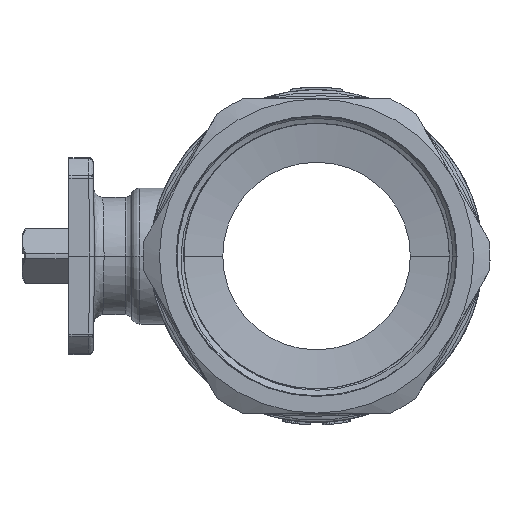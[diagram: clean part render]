
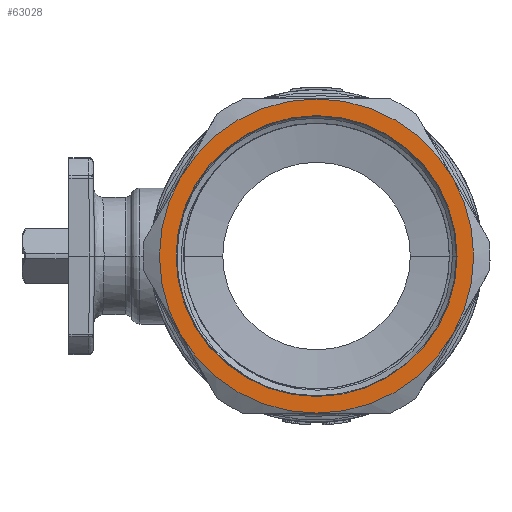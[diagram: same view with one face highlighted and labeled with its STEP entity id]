
A CAD part, left-side view. The second image highlights one B-rep face of the part: STEP entity #63028.
In plain terms, the highlighted planar face has unit normal (-1, 0, 0) as drawn and (1, 0, 0) by its records, which use the part's own axes.
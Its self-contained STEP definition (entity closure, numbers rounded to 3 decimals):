
#59046=CARTESIAN_POINT('',(31.1,0.,0.));
#59047=DIRECTION('',(1.,0.,0.));
#59048=DIRECTION('',(0.,0.866,-0.5));
#59049=AXIS2_PLACEMENT_3D('',#59046,#59047,#59048);
#59066=CARTESIAN_POINT('',(31.1,0.,0.));
#59067=DIRECTION('',(1.,0.,0.));
#59068=DIRECTION('',(0.,-0.866,0.5));
#59069=AXIS2_PLACEMENT_3D('',#59066,#59067,#59068);
#59081=CARTESIAN_POINT('',(31.1,-29.012,
-16.75));
#59117=CARTESIAN_POINT('',(31.1,0.,
-33.5));
#59135=CARTESIAN_POINT('',(31.1,0.,0.));
#59136=DIRECTION('',(-1.,0.,0.));
#59137=DIRECTION('',(0.,0.866,-0.5));
#59138=AXIS2_PLACEMENT_3D('',#59135,#59136,#59137);
#59140=CARTESIAN_POINT('',(31.1,0.,0.));
#59141=DIRECTION('',(-1.,0.,0.));
#59142=DIRECTION('',(0.,0.,-1.));
#59143=AXIS2_PLACEMENT_3D('',#59140,#59141,#59142);
#59145=CARTESIAN_POINT('',(31.1,0.,0.));
#59146=DIRECTION('',(1.,0.,0.));
#59147=DIRECTION('',(0.,0.,1.));
#59148=AXIS2_PLACEMENT_3D('',#59145,#59146,#59147);
#59150=CARTESIAN_POINT('',(31.1,0.,0.));
#59151=DIRECTION('',(1.,0.,0.));
#59152=DIRECTION('',(0.,0.866,0.5));
#59153=AXIS2_PLACEMENT_3D('',#59150,#59151,#59152);
#59177=CARTESIAN_POINT('',(31.1,0.,0.));
#59178=DIRECTION('',(1.,0.,0.));
#59179=DIRECTION('',(0.,1.,0.));
#59180=AXIS2_PLACEMENT_3D('',#59177,#59178,#59179);
#59286=CARTESIAN_POINT('',(31.1,0.,0.));
#59287=DIRECTION('',(-1.,0.,0.));
#59288=DIRECTION('',(0.,1.,0.));
#59289=AXIS2_PLACEMENT_3D('',#59286,#59287,#59288);
#61717=CARTESIAN_POINT('',(31.1,29.012,
-16.75));
#61815=CARTESIAN_POINT('',(31.1,29.012,16.75));
#61851=CARTESIAN_POINT('',(31.1,0.,33.5));
#61887=CARTESIAN_POINT('',(31.1,-29.012,
16.75));
#62614=CARTESIAN_POINT('',(31.1,29.95,0.));
#62615=CARTESIAN_POINT('',(31.1,-29.95,0.));
#62616=VERTEX_POINT('',#62614);
#62617=VERTEX_POINT('',#62615);
#62623=VERTEX_POINT('',#61815);
#62628=VERTEX_POINT('',#61851);
#62632=VERTEX_POINT('',#61887);
#62634=VERTEX_POINT('',#59081);
#62639=VERTEX_POINT('',#59117);
#62643=VERTEX_POINT('',#61717);
#63009=CARTESIAN_POINT('',(31.1,0.,0.));
#63010=DIRECTION('',(-1.,0.,0.));
#63011=DIRECTION('',(0.,1.,0.));
#63012=AXIS2_PLACEMENT_3D('',#63009,#63010,#63011);
#63013=PLANE('',#63012);
#63014=ORIENTED_EDGE('',*,*,#62878,.F.);
#63015=ORIENTED_EDGE('',*,*,#63000,.T.);
#63016=ORIENTED_EDGE('',*,*,#62864,.T.);
#63017=ORIENTED_EDGE('',*,*,#62925,.F.);
#63018=ORIENTED_EDGE('',*,*,#62911,.F.);
#63019=ORIENTED_EDGE('',*,*,#62895,.F.);
#63020=EDGE_LOOP('',(#63014,#63015,#63016,#63017,#63018,#63019));
#63021=FACE_OUTER_BOUND('',#63020,.F.);
#63023=ORIENTED_EDGE('',*,*,#63022,.T.);
#63025=ORIENTED_EDGE('',*,*,#63024,.F.);
#63026=EDGE_LOOP('',(#63023,#63025));
#63027=FACE_BOUND('',#63026,.F.);
#59050=CIRCLE('',#59049,33.5);
#59070=CIRCLE('',#59069,33.5);
#59139=CIRCLE('',#59138,33.5);
#59144=CIRCLE('',#59143,33.5);
#59149=CIRCLE('',#59148,33.5);
#59154=CIRCLE('',#59153,33.5);
#59181=CIRCLE('',#59180,29.95);
#59290=CIRCLE('',#59289,29.95);
#62864=EDGE_CURVE('',#62639,#62634,#59144,.T.);
#62878=EDGE_CURVE('',#62643,#62623,#59050,.T.);
#62895=EDGE_CURVE('',#62623,#62628,#59154,.T.);
#62911=EDGE_CURVE('',#62628,#62632,#59149,.T.);
#62925=EDGE_CURVE('',#62632,#62634,#59070,.T.);
#63000=EDGE_CURVE('',#62643,#62639,#59139,.T.);
#63022=EDGE_CURVE('',#62616,#62617,#59181,.T.);
#63024=EDGE_CURVE('',#62616,#62617,#59290,.T.);
#63028=ADVANCED_FACE('',(#63021,#63027),#63013,.F.);
